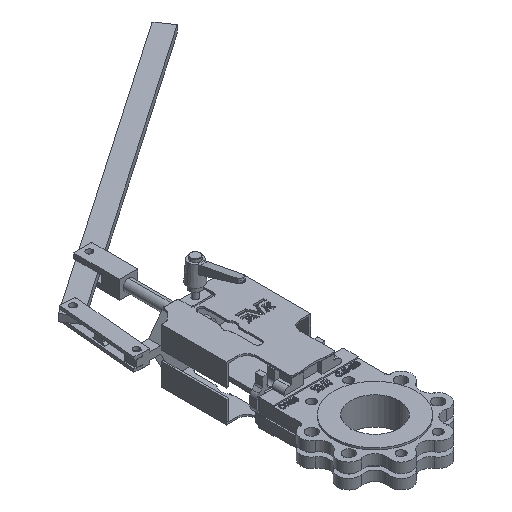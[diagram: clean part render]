
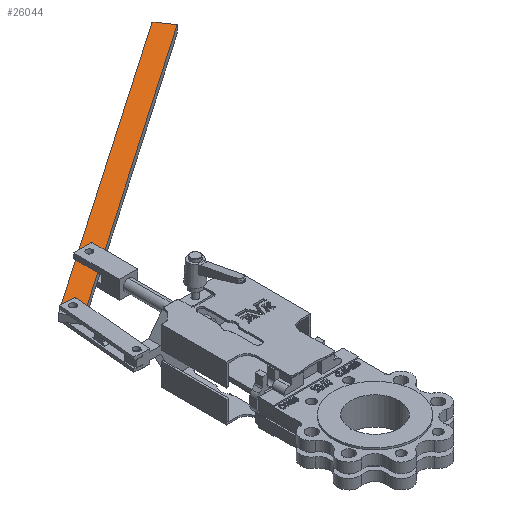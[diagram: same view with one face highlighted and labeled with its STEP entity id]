
A CAD part, isometric view. The second image highlights one B-rep face of the part: STEP entity #26044.
In plain terms, the highlighted planar face has unit normal (0, 0, 1).
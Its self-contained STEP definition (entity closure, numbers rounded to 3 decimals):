
#207 = VECTOR ( 'NONE', #21420, 1000. ) ;
#292 = CARTESIAN_POINT ( 'NONE',  ( -5.25, 472., 8. ) ) ;
#1362 = EDGE_CURVE ( 'NONE', #28970, #45584, #7610, .T. ) ;
#2008 = CARTESIAN_POINT ( 'NONE',  ( 406.135, 732.932, 8. ) ) ;
#2221 = DIRECTION ( 'NONE',  ( 1., 0., 0. ) ) ;
#3226 = AXIS2_PLACEMENT_3D ( 'NONE', #42363, #10081, #21078 ) ;
#4104 = VERTEX_POINT ( 'NONE', #292 ) ;
#4402 = DIRECTION ( 'NONE',  ( 0.824, 0.566, 0. ) ) ;
#5258 = CARTESIAN_POINT ( 'NONE',  ( -110.451, 10.007, 8. ) ) ;
#5453 = CIRCLE ( 'NONE', #27525, 5.25 ) ;
#6280 = AXIS2_PLACEMENT_3D ( 'NONE', #14135, #23947, #27967 ) ;
#6508 = ORIENTED_EDGE ( 'NONE', *, *, #8325, .F. ) ;
#7461 = CARTESIAN_POINT ( 'NONE',  ( 37.27, 411.351, 8. ) ) ;
#7610 = LINE ( 'NONE', #36259, #31286 ) ;
#8325 = EDGE_CURVE ( 'NONE', #26481, #31964, #37613, .T. ) ;
#8827 = ORIENTED_EDGE ( 'NONE', *, *, #24388, .F. ) ;
#9528 = VECTOR ( 'NONE', #45604, 1000. ) ;
#10081 = DIRECTION ( 'NONE',  ( 0., 0., -1. ) ) ;
#10418 = CARTESIAN_POINT ( 'NONE',  ( -88.338, 393.085, 8. ) ) ;
#10601 = FACE_BOUND ( 'NONE', #24960, .T. ) ;
#11210 = CARTESIAN_POINT ( 'NONE',  ( 406.135, 732.932, 8. ) ) ;
#11369 = DIRECTION ( 'NONE',  ( 0.566, -0.824, 0. ) ) ;
#12324 = LINE ( 'NONE', #11210, #16722 ) ;
#12647 = DIRECTION ( 'NONE',  ( -0.09, -0.996, 0. ) ) ;
#13977 = PLANE ( 'NONE',  #6280 ) ;
#14135 = CARTESIAN_POINT ( 'NONE',  ( 0., 0., 8. ) ) ;
#15180 = ORIENTED_EDGE ( 'NONE', *, *, #37184, .T. ) ;
#15339 = ORIENTED_EDGE ( 'NONE', *, *, #36553, .T. ) ;
#16347 = CARTESIAN_POINT ( 'NONE',  ( 0., 472., 8. ) ) ;
#16722 = VECTOR ( 'NONE', #11369, 1000. ) ;
#17077 = EDGE_CURVE ( 'NONE', #4104, #26415, #5453, .T. ) ;
#17533 = LINE ( 'NONE', #5258, #25192 ) ;
#19395 = FACE_OUTER_BOUND ( 'NONE', #27249, .T. ) ;
#20444 = EDGE_CURVE ( 'NONE', #31106, #31964, #17533, .T. ) ;
#21078 = DIRECTION ( 'NONE',  ( 1., 0., 0. ) ) ;
#21420 = DIRECTION ( 'NONE',  ( 0.996, -0.09, 0. ) ) ;
#23947 = DIRECTION ( 'NONE',  ( 0., 0., 1. ) ) ;
#24388 = EDGE_CURVE ( 'NONE', #45584, #26481, #12324, .T. ) ;
#24814 = CARTESIAN_POINT ( 'NONE',  ( 389.143, 757.655, 8. ) ) ;
#24960 = EDGE_LOOP ( 'NONE', ( #15339, #33839 ) ) ;
#25192 = VECTOR ( 'NONE', #12647, 1000. ) ;
#26044 = ADVANCED_FACE ( 'NONE', ( #10601, #19395 ), #13977, .T. ) ;
#26055 = ORIENTED_EDGE ( 'NONE', *, *, #1362, .F. ) ;
#26415 = VERTEX_POINT ( 'NONE', #26871 ) ;
#26481 = VERTEX_POINT ( 'NONE', #2008 ) ;
#26871 = CARTESIAN_POINT ( 'NONE',  ( 5.25, 472., 8. ) ) ;
#27249 = EDGE_LOOP ( 'NONE', ( #15180, #31277, #6508, #8827, #26055 ) ) ;
#27525 = AXIS2_PLACEMENT_3D ( 'NONE', #16347, #37297, #2221 ) ;
#27892 = CARTESIAN_POINT ( 'NONE',  ( -73.182, 421.358, 8. ) ) ;
#27967 = DIRECTION ( 'NONE',  ( 1., 0., 0. ) ) ;
#28970 = VERTEX_POINT ( 'NONE', #43437 ) ;
#31106 = VERTEX_POINT ( 'NONE', #27892 ) ;
#31277 = ORIENTED_EDGE ( 'NONE', *, *, #20444, .T. ) ;
#31286 = VECTOR ( 'NONE', #4402, 1000. ) ;
#31483 = CARTESIAN_POINT ( 'NONE',  ( -74.907, 402.316, 8. ) ) ;
#31964 = VERTEX_POINT ( 'NONE', #31483 ) ;
#33839 = ORIENTED_EDGE ( 'NONE', *, *, #17077, .T. ) ;
#35416 = LINE ( 'NONE', #7461, #207 ) ;
#35948 = CIRCLE ( 'NONE', #3226, 5.25 ) ;
#36259 = CARTESIAN_POINT ( 'NONE',  ( 389.143, 757.655, 8. ) ) ;
#36553 = EDGE_CURVE ( 'NONE', #26415, #4104, #35948, .T. ) ;
#37184 = EDGE_CURVE ( 'NONE', #28970, #31106, #35416, .T. ) ;
#37297 = DIRECTION ( 'NONE',  ( 0., 0., -1. ) ) ;
#37613 = LINE ( 'NONE', #10418, #9528 ) ;
#42363 = CARTESIAN_POINT ( 'NONE',  ( 0., 472., 8. ) ) ;
#43437 = CARTESIAN_POINT ( 'NONE',  ( -97.023, 423.518, 8. ) ) ;
#45584 = VERTEX_POINT ( 'NONE', #24814 ) ;
#45604 = DIRECTION ( 'NONE',  ( -0.824, -0.566, 0. ) ) ;
